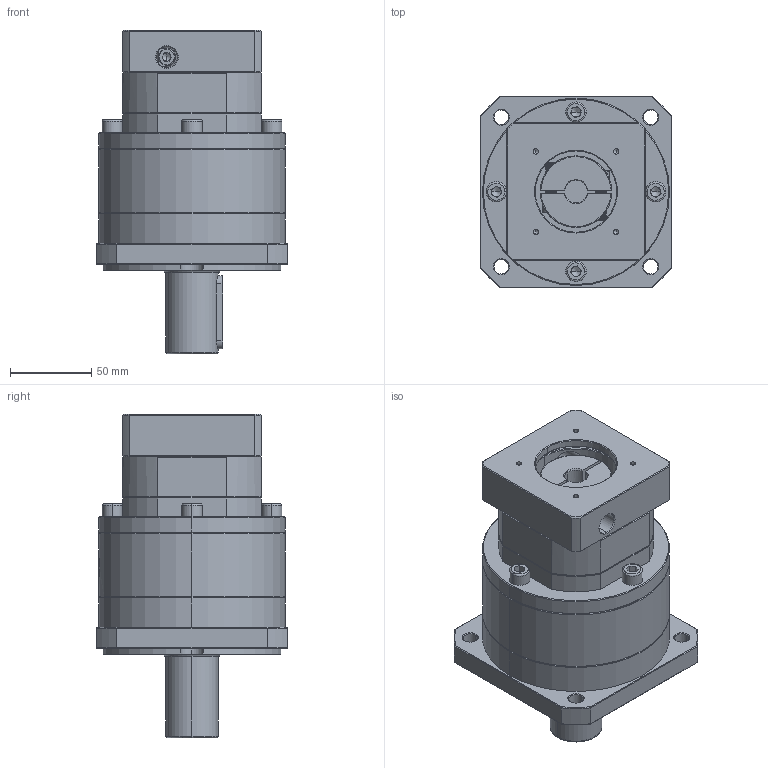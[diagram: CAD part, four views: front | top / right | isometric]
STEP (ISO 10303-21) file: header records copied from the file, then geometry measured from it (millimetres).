
FILE_DESCRIPTION (( 'STEP AP214' ), '1' );
FILE_NAME ('ZF120A-D32-L2-P2-14-50-70-M4.step', '2023-08-27T05:59:01', ( '' ), ( '' ), 'SwSTEP 2.0', 'SolidWorks 2016', '' );
FILE_SCHEMA (( 'AUTOMOTIVE_DESIGN' ));
Length unit declared in the file: millimetre
Products named in the file (1): ZF120A-D32-L2-P2-14-50-70-M4
Bounding box: 118 x 118 x 199 mm (x, y, z)
Volume: 1308656.7 mm3; surface area: 128565.8 mm2
Topology: 5 solids, 6 shells, 2073 faces, 5475 edges, 3502 vertices
Faces by surface type: plane 1053, bspline 407, cone 314, cylinder 284, torus 15
Entity records: 106553 total; most frequent: CARTESIAN_POINT 37106, ORIENTED_EDGE 10890, DIRECTION 8014, EDGE_CURVE 5445, VERTEX_POINT 3502, VECTOR 2946, LINE 2946, AXIS2_PLACEMENT_3D 2534
